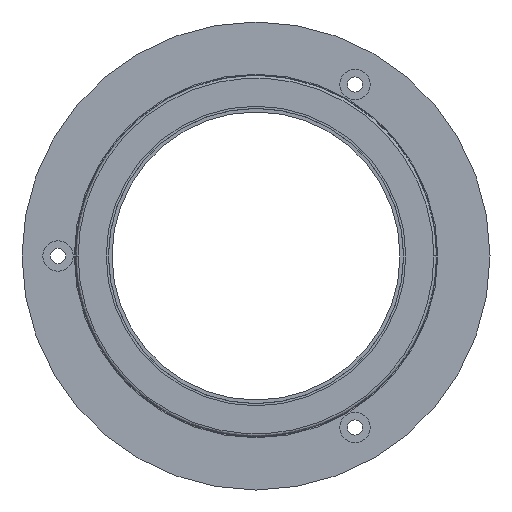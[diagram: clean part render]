
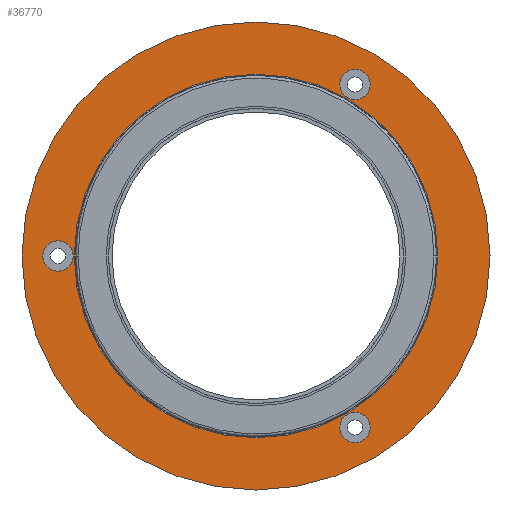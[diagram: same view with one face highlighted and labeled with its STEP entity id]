
A CAD part, left-side view. The second image highlights one B-rep face of the part: STEP entity #36770.
In plain terms, the highlighted planar face has unit normal (-1, 0, 0).
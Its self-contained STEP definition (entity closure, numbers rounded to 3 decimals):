
#626 = DIRECTION ( 'NONE',  ( 0., 1., 0. ) ) ;
#820 = FACE_BOUND ( 'NONE', #111336, .T. ) ;
#1672 = EDGE_CURVE ( 'NONE', #113469, #11855, #59902, .T. ) ;
#1890 = DIRECTION ( 'NONE',  ( 0., 1., 0. ) ) ;
#4540 = CARTESIAN_POINT ( 'NONE',  ( 2.8, -15.85, 23.816 ) ) ;
#5417 = CIRCLE ( 'NONE', #53630, 2.1 ) ;
#7569 = CARTESIAN_POINT ( 'NONE',  ( 2.8, 0., 0. ) ) ;
#8567 = DIRECTION ( 'NONE',  ( 0., -1., 0. ) ) ;
#9851 = CIRCLE ( 'NONE', #104988, 2.1 ) ;
#9866 = VERTEX_POINT ( 'NONE', #101174 ) ;
#11855 = VERTEX_POINT ( 'NONE', #104555 ) ;
#12924 = DIRECTION ( 'NONE',  ( 0., -1., 0. ) ) ;
#13369 = DIRECTION ( 'NONE',  ( -1., 0., 0. ) ) ;
#14254 = CARTESIAN_POINT ( 'NONE',  ( 2.8, 32.5, 0. ) ) ;
#14854 = CARTESIAN_POINT ( 'NONE',  ( 2.8, 0., 0. ) ) ;
#18995 = AXIS2_PLACEMENT_3D ( 'NONE', #7569, #68858, #626 ) ;
#21785 = DIRECTION ( 'NONE',  ( 0., -1., 0. ) ) ;
#22189 = CARTESIAN_POINT ( 'NONE',  ( 2.8, 0., 0. ) ) ;
#23596 = VERTEX_POINT ( 'NONE', #109268 ) ;
#25898 = VERTEX_POINT ( 'NONE', #4540 ) ;
#27592 = VERTEX_POINT ( 'NONE', #92823 ) ;
#29588 = CARTESIAN_POINT ( 'NONE',  ( 2.8, -11.65, -23.816 ) ) ;
#31378 = AXIS2_PLACEMENT_3D ( 'NONE', #31695, #13369, #48177 ) ;
#31695 = CARTESIAN_POINT ( 'NONE',  ( 2.8, 22.5, 0. ) ) ;
#32071 = EDGE_CURVE ( 'NONE', #107588, #27592, #112605, .T. ) ;
#33418 = AXIS2_PLACEMENT_3D ( 'NONE', #111308, #33477, #42274 ) ;
#33477 = DIRECTION ( 'NONE',  ( 1., 0., 0. ) ) ;
#34572 = EDGE_CURVE ( 'NONE', #27592, #107588, #106840, .T. ) ;
#36770 = ADVANCED_FACE ( 'NONE', ( #84372, #76253, #40596, #39192, #820 ), #57393, .T. ) ;
#39192 = FACE_BOUND ( 'NONE', #98541, .T. ) ;
#39665 = AXIS2_PLACEMENT_3D ( 'NONE', #66789, #103195, #50653 ) ;
#40452 = DIRECTION ( 'NONE',  ( 0., -1., 0. ) ) ;
#40596 = FACE_BOUND ( 'NONE', #69643, .T. ) ;
#40870 = CIRCLE ( 'NONE', #56220, 2.1 ) ;
#41396 = CARTESIAN_POINT ( 'NONE',  ( 2.8, 27.5, 0. ) ) ;
#42274 = DIRECTION ( 'NONE',  ( 0., 1., 0. ) ) ;
#47808 = EDGE_CURVE ( 'NONE', #68255, #78553, #40870, .T. ) ;
#48177 = DIRECTION ( 'NONE',  ( 0., -1., 0. ) ) ;
#50137 = ORIENTED_EDGE ( 'NONE', *, *, #87495, .T. ) ;
#50653 = DIRECTION ( 'NONE',  ( 0., -1., 0. ) ) ;
#51744 = AXIS2_PLACEMENT_3D ( 'NONE', #22189, #83487, #1890 ) ;
#51976 = ORIENTED_EDGE ( 'NONE', *, *, #1672, .T. ) ;
#52449 = CIRCLE ( 'NONE', #51744, 32.5 ) ;
#53480 = ORIENTED_EDGE ( 'NONE', *, *, #47808, .T. ) ;
#53630 = AXIS2_PLACEMENT_3D ( 'NONE', #112825, #105540, #8567 ) ;
#56220 = AXIS2_PLACEMENT_3D ( 'NONE', #97634, #64252, #12924 ) ;
#57393 = PLANE ( 'NONE',  #31378 ) ;
#58281 = DIRECTION ( 'NONE',  ( 0., -1., 0. ) ) ;
#58818 = CARTESIAN_POINT ( 'NONE',  ( 2.8, -13.75, 23.816 ) ) ;
#59902 = CIRCLE ( 'NONE', #18995, 32.5 ) ;
#62074 = EDGE_LOOP ( 'NONE', ( #51976, #50137 ) ) ;
#64252 = DIRECTION ( 'NONE',  ( 1., 0., 0. ) ) ;
#66246 = DIRECTION ( 'NONE',  ( 1., 0., 0. ) ) ;
#66450 = CARTESIAN_POINT ( 'NONE',  ( 2.8, 29.6, 0. ) ) ;
#66789 = CARTESIAN_POINT ( 'NONE',  ( 2.8, 27.5, 0. ) ) ;
#68255 = VERTEX_POINT ( 'NONE', #29588 ) ;
#68858 = DIRECTION ( 'NONE',  ( -1., 0., 0. ) ) ;
#69643 = EDGE_LOOP ( 'NONE', ( #107772, #106112 ) ) ;
#72644 = CARTESIAN_POINT ( 'NONE',  ( 2.8, -15.85, -23.816 ) ) ;
#72647 = ORIENTED_EDGE ( 'NONE', *, *, #34572, .T. ) ;
#74310 = CARTESIAN_POINT ( 'NONE',  ( 2.8, -13.75, 23.816 ) ) ;
#74979 = VERTEX_POINT ( 'NONE', #66450 ) ;
#75014 = DIRECTION ( 'NONE',  ( 1., 0., 0. ) ) ;
#76253 = FACE_BOUND ( 'NONE', #86063, .T. ) ;
#76873 = ORIENTED_EDGE ( 'NONE', *, *, #93687, .T. ) ;
#78553 = VERTEX_POINT ( 'NONE', #72644 ) ;
#79073 = AXIS2_PLACEMENT_3D ( 'NONE', #14854, #75014, #111404 ) ;
#79199 = EDGE_CURVE ( 'NONE', #78553, #68255, #5417, .T. ) ;
#80084 = EDGE_CURVE ( 'NONE', #74979, #9866, #112190, .T. ) ;
#81789 = AXIS2_PLACEMENT_3D ( 'NONE', #74310, #66246, #21785 ) ;
#83487 = DIRECTION ( 'NONE',  ( -1., 0., 0. ) ) ;
#84143 = DIRECTION ( 'NONE',  ( 1., 0., 0. ) ) ;
#84372 = FACE_OUTER_BOUND ( 'NONE', #62074, .T. ) ;
#85082 = DIRECTION ( 'NONE',  ( 1., 0., 0. ) ) ;
#85112 = EDGE_CURVE ( 'NONE', #23596, #25898, #98126, .T. ) ;
#86063 = EDGE_LOOP ( 'NONE', ( #98329, #72647 ) ) ;
#87495 = EDGE_CURVE ( 'NONE', #11855, #113469, #52449, .T. ) ;
#92039 = CARTESIAN_POINT ( 'NONE',  ( 2.8, 22.5, 0. ) ) ;
#92823 = CARTESIAN_POINT ( 'NONE',  ( 2.8, -22.5, 0. ) ) ;
#93687 = EDGE_CURVE ( 'NONE', #9866, #74979, #9851, .T. ) ;
#96592 = CIRCLE ( 'NONE', #102659, 2.1 ) ;
#97634 = CARTESIAN_POINT ( 'NONE',  ( 2.8, -13.75, -23.816 ) ) ;
#98126 = CIRCLE ( 'NONE', #81789, 2.1 ) ;
#98329 = ORIENTED_EDGE ( 'NONE', *, *, #32071, .T. ) ;
#98541 = EDGE_LOOP ( 'NONE', ( #105783, #53480 ) ) ;
#101174 = CARTESIAN_POINT ( 'NONE',  ( 2.8, 25.4, 0. ) ) ;
#101583 = ORIENTED_EDGE ( 'NONE', *, *, #80084, .T. ) ;
#102659 = AXIS2_PLACEMENT_3D ( 'NONE', #58818, #84143, #40452 ) ;
#103195 = DIRECTION ( 'NONE',  ( 1., 0., 0. ) ) ;
#104555 = CARTESIAN_POINT ( 'NONE',  ( 2.8, -32.5, 0. ) ) ;
#104988 = AXIS2_PLACEMENT_3D ( 'NONE', #41396, #85082, #58281 ) ;
#105540 = DIRECTION ( 'NONE',  ( 1., 0., 0. ) ) ;
#105783 = ORIENTED_EDGE ( 'NONE', *, *, #79199, .T. ) ;
#106112 = ORIENTED_EDGE ( 'NONE', *, *, #85112, .T. ) ;
#106840 = CIRCLE ( 'NONE', #79073, 22.5 ) ;
#107588 = VERTEX_POINT ( 'NONE', #92039 ) ;
#107772 = ORIENTED_EDGE ( 'NONE', *, *, #112671, .T. ) ;
#109268 = CARTESIAN_POINT ( 'NONE',  ( 2.8, -11.65, 23.816 ) ) ;
#111308 = CARTESIAN_POINT ( 'NONE',  ( 2.8, 0., 0. ) ) ;
#111336 = EDGE_LOOP ( 'NONE', ( #76873, #101583 ) ) ;
#111404 = DIRECTION ( 'NONE',  ( 0., 1., 0. ) ) ;
#112190 = CIRCLE ( 'NONE', #39665, 2.1 ) ;
#112605 = CIRCLE ( 'NONE', #33418, 22.5 ) ;
#112671 = EDGE_CURVE ( 'NONE', #25898, #23596, #96592, .T. ) ;
#112825 = CARTESIAN_POINT ( 'NONE',  ( 2.8, -13.75, -23.816 ) ) ;
#113469 = VERTEX_POINT ( 'NONE', #14254 ) ;
